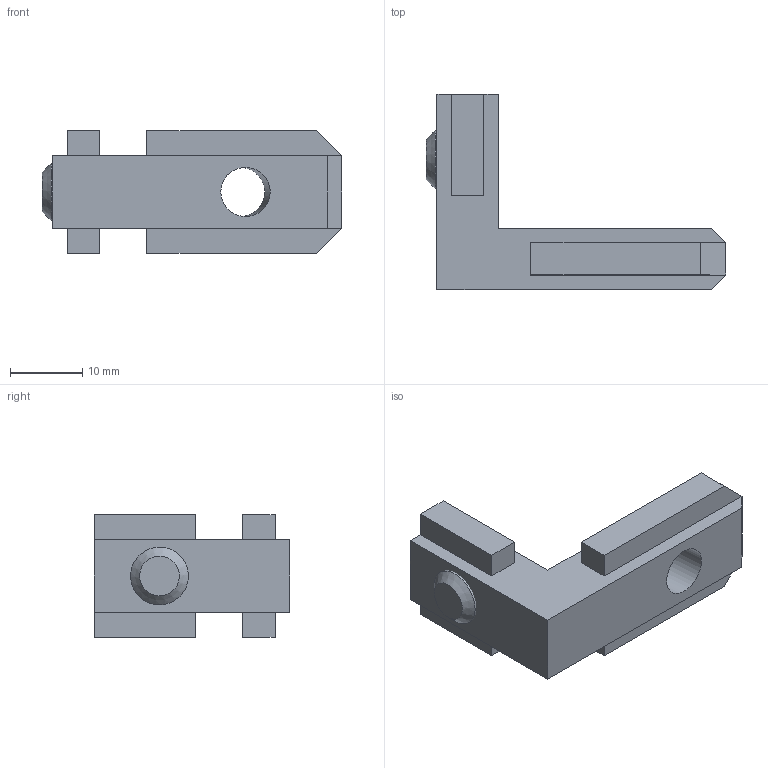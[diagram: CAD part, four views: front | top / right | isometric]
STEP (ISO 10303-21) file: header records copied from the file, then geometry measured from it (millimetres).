
FILE_DESCRIPTION(/* description */ ('Staffa di connessione interno cava 10'),/* implementation_level */ '2;1');
FILE_NAME(/* name */ 'C:\Users\Stefan.Nesic\Desktop\MATTIA\IB10M8A.stp',/* time_stamp */ '2022-04-22T16:01:25+02:00',/* author */ ('stefan.nesic'),/* organization */ ('Microsoft'),/* preprocessor_version */ 'ST-DEVELOPER v18.1',/* originating_system */ 'Autodesk Inventor 2021',/* authorisation */ '');
FILE_SCHEMA (('AUTOMOTIVE_DESIGN { 1 0 10303 214 3 1 1 }'));
Length unit declared in the file: millimetre
Products named in the file (1): IB10M8A
Bounding box: 41.5 x 27 x 17 mm (x, y, z)
Volume: 5550.3 mm3; surface area: 3527.4 mm2
Topology: 1 solids, 2 shells, 43 faces, 108 edges, 69 vertices
Faces by surface type: plane 38, cylinder 3, cone 2
Full cylindrical faces by diameter (mm): 6.8 x2, 8 x1
Entity records: 1314 total; most frequent: CARTESIAN_POINT 221, ORIENTED_EDGE 208, DIRECTION 207, EDGE_CURVE 108, LINE 97, VECTOR 97, VERTEX_POINT 69, AXIS2_PLACEMENT_3D 55
